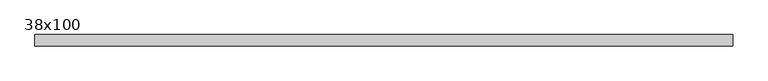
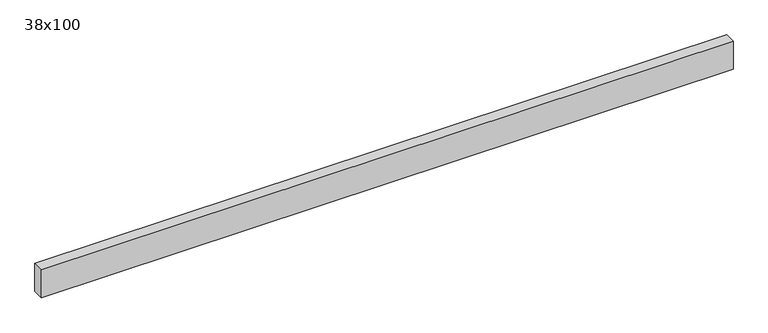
"""IFC4 building model written with IfcOpenShell, lengths in millimetres: beam geometry, Poutre - Bois de construction de dimensions courantes : 38x100."""

from ifc_helpers import new_model, si_unit, frame, origin, place, context, project, spatial, polyline, outline, extrude, source, transform, mapped, element, save


def beam_38x100_ad46e8ac(model_context):
    return source(origin(), model_context, "Body", "SweptSolid", [
        extrude(outline(polyline([(1094.0, 19.05), (1094.0, -19.05), (-1254.0, -19.05), (-1254.0, 19.05), (1094.0, 19.05)])), frame((0.0, 0.0, -50.0), z_axis=(0.0, 0.0, 1.0), x_axis=(1.0, 0.0, 0.0)), (0.0, 0.0, 1.0), 100.0),
    ])


if __name__ == "__main__":
    model = new_model("IFC4")
    model_context = context("Model", 3, world=origin())
    ifc_project = project(units=[si_unit("LENGTHUNIT", "METRE", prefix="MILLI")], contexts=[model_context])
    site = spatial("IfcSite", under=ifc_project)
    building = spatial("IfcBuilding", under=site)
    placement = place(None, origin())
    beam_38x100_shape = beam_38x100_ad46e8ac(model_context)
    element("IfcBeam", 1, ObjectType="Poutre - Bois de construction de dimensions courantes : 38x100", at=placement, inside=building, context=model_context, shape_type="MappedRepresentation", body=[
        mapped(beam_38x100_shape, transform((0.0, 0.0, 0.0), x_axis=(1.0, 0.0, 0.0), y_axis=(0.0, 1.0, 0.0), z_axis=(0.0, 0.0, 1.0))),
    ])
    save(model, "model.ifc")
